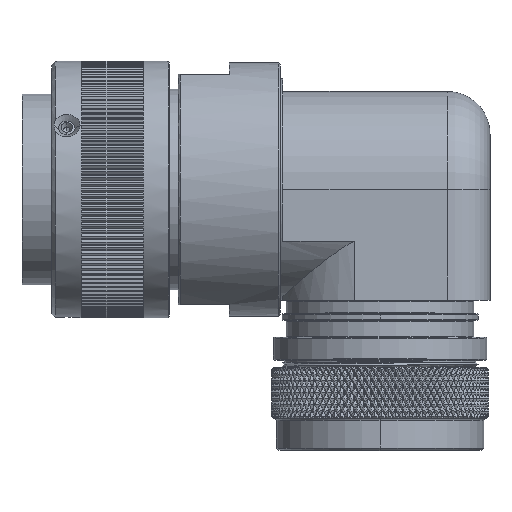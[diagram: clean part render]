
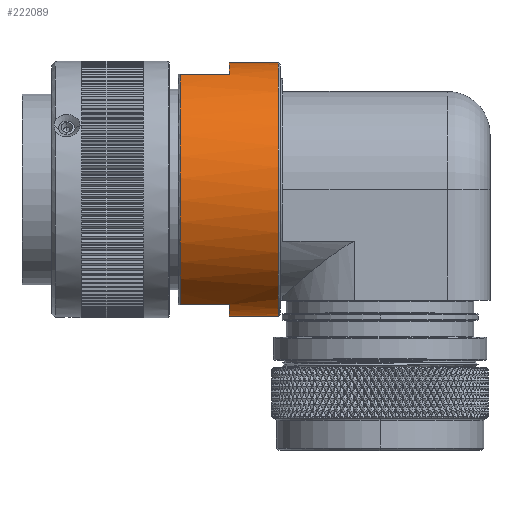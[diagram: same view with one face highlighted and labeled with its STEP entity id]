
A CAD part, top view. The second image highlights one B-rep face of the part: STEP entity #222089.
In plain terms, the highlighted cylindrical face has radius 29.75 mm (diameter 59.5 mm), a partial arc.
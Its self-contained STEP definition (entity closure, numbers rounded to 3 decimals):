
#75709=CARTESIAN_POINT('',(48.6,0.,0.));
#75710=DIRECTION('',(1.,0.,0.));
#75711=DIRECTION('',(0.,1.,0.));
#75712=AXIS2_PLACEMENT_3D('',#75709,#75710,#75711);
#75714=CARTESIAN_POINT('',(60.1,0.,0.));
#75715=DIRECTION('',(-1.,0.,0.));
#75716=DIRECTION('',(0.,-1.,0.));
#75717=AXIS2_PLACEMENT_3D('',#75714,#75715,#75716);
#75719=CARTESIAN_POINT('',(48.6,0.,0.));
#75720=DIRECTION('',(1.,0.,0.));
#75721=DIRECTION('',(0.,-0.908,0.42));
#75722=AXIS2_PLACEMENT_3D('',#75719,#75720,#75721);
#75724=DIRECTION('',(1.,0.,0.));
#75725=VECTOR('',#75724,11.5);
#75726=CARTESIAN_POINT('',(37.1,-27.,12.492));
#75727=LINE('12714',#75726,#75725);
#75728=CARTESIAN_POINT('',(37.1,0.,0.));
#75729=DIRECTION('',(-1.,0.,0.));
#75730=DIRECTION('',(0.,-0.908,0.42));
#75731=AXIS2_PLACEMENT_3D('',#75728,#75729,#75730);
#75733=DIRECTION('',(1.,0.,0.));
#75734=VECTOR('',#75733,11.5);
#75735=CARTESIAN_POINT('',(37.1,27.,12.492));
#75736=LINE('12713',#75735,#75734);
#75782=DIRECTION('',(-1.,0.,0.));
#75783=VECTOR('',#75782,11.5);
#75784=CARTESIAN_POINT('',(60.1,-29.75,
0.));
#75785=LINE('12736',#75784,#75783);
#75791=DIRECTION('',(-1.,0.,0.));
#75792=VECTOR('',#75791,11.5);
#75793=CARTESIAN_POINT('',(60.1,29.75,
0.));
#75794=LINE('12735',#75793,#75792);
#85932=CARTESIAN_POINT('',(48.6,29.75,0.));
#85933=CARTESIAN_POINT('',(48.6,27.,12.492));
#85934=VERTEX_POINT('',#85932);
#85935=VERTEX_POINT('',#85933);
#85936=CARTESIAN_POINT('',(48.6,-27.,12.492));
#85937=CARTESIAN_POINT('',(48.6,-29.75,0.));
#85938=VERTEX_POINT('',#85936);
#85939=VERTEX_POINT('',#85937);
#85940=CARTESIAN_POINT('',(37.1,27.,12.492));
#85941=VERTEX_POINT('',#85940);
#85942=CARTESIAN_POINT('',(37.1,-27.,12.492));
#85943=VERTEX_POINT('',#85942);
#85952=CARTESIAN_POINT('',(60.1,-29.75,0.));
#85953=CARTESIAN_POINT('',(60.1,29.75,0.));
#85954=VERTEX_POINT('',#85952);
#85955=VERTEX_POINT('',#85953);
#222067=CARTESIAN_POINT('',(35.4,0.,0.));
#222068=DIRECTION('',(1.,0.,0.));
#222069=DIRECTION('',(0.,-1.,0.));
#222070=AXIS2_PLACEMENT_3D('',#222067,#222068,#222069);
#222071=CYLINDRICAL_SURFACE('1790',#222070,29.75);
#222073=ORIENTED_EDGE('12711',*,*,#222072,.F.);
#222075=ORIENTED_EDGE('12735',*,*,#222074,.F.);
#222076=ORIENTED_EDGE('12721',*,*,#222050,.F.);
#222078=ORIENTED_EDGE('12736',*,*,#222077,.T.);
#222080=ORIENTED_EDGE('12712',*,*,#222079,.F.);
#222082=ORIENTED_EDGE('12714',*,*,#222081,.F.);
#222084=ORIENTED_EDGE('12732',*,*,#222083,.T.);
#222086=ORIENTED_EDGE('12713',*,*,#222085,.T.);
#222087=EDGE_LOOP('1790',(#222073,#222075,#222076,#222078,#222080,#222082,
#222084,#222086));
#222088=FACE_OUTER_BOUND('1790',#222087,.F.);
#75713=CIRCLE('12711',#75712,29.75);
#75718=CIRCLE('12721',#75717,29.75);
#75723=CIRCLE('12712',#75722,29.75);
#75732=CIRCLE('12732',#75731,29.75);
#222050=EDGE_CURVE('12721',#85954,#85955,#75718,.T.);
#222072=EDGE_CURVE('12711',#85934,#85935,#75713,.T.);
#222074=EDGE_CURVE('12735',#85955,#85934,#75794,.T.);
#222077=EDGE_CURVE('12736',#85954,#85939,#75785,.T.);
#222079=EDGE_CURVE('12712',#85938,#85939,#75723,.T.);
#222081=EDGE_CURVE('12714',#85943,#85938,#75727,.T.);
#222083=EDGE_CURVE('12732',#85943,#85941,#75732,.T.);
#222085=EDGE_CURVE('12713',#85941,#85935,#75736,.T.);
#222089=ADVANCED_FACE('1790',(#222088),#222071,.T.);
